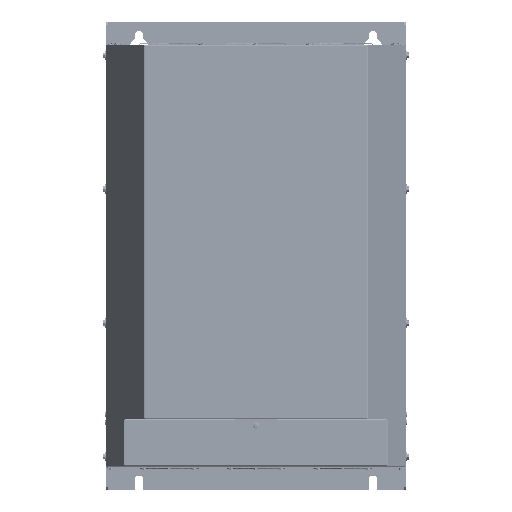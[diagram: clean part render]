
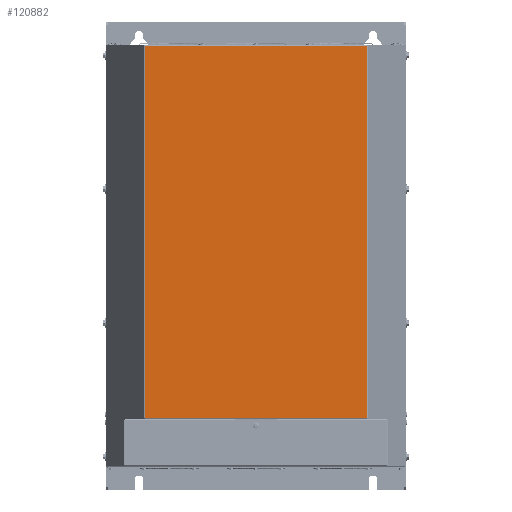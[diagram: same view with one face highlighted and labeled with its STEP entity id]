
A CAD part, front view. The second image highlights one B-rep face of the part: STEP entity #120882.
In plain terms, the highlighted planar face has unit normal (0, -1, 0).
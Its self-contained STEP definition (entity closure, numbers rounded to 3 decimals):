
#120567=CARTESIAN_POINT('',(166.226,-385.,-242.2));
#120568=VERTEX_POINT('',#120567);
#120576=CARTESIAN_POINT('',(-166.226,-385.,-242.2));
#120577=VERTEX_POINT('',#120576);
#120578=CARTESIAN_POINT('',(-166.226,-385.,-242.2));
#120579=DIRECTION('',(1.0,0.0,0.0));
#120580=VECTOR('',#120579,332.451);
#120581=LINE('',#120578,#120580);
#120582=EDGE_CURVE('',#120577,#120568,#120581,.T.);
#120736=CARTESIAN_POINT('',(-166.226,-385.,314.2));
#120737=VERTEX_POINT('',#120736);
#120738=CARTESIAN_POINT('',(-166.226,-385.,-242.2));
#120739=DIRECTION('',(0.0,0.0,1.0));
#120740=VECTOR('',#120739,556.4);
#120741=LINE('',#120738,#120740);
#120742=EDGE_CURVE('',#120577,#120737,#120741,.T.);
#120817=CARTESIAN_POINT('',(166.226,-385.,314.2));
#120818=VERTEX_POINT('',#120817);
#120826=CARTESIAN_POINT('',(166.226,-385.,-242.2));
#120827=DIRECTION('',(0.0,0.0,1.0));
#120828=VECTOR('',#120827,556.4);
#120829=LINE('',#120826,#120828);
#120830=EDGE_CURVE('',#120568,#120818,#120829,.T.);
#120866=CARTESIAN_POINT('',(166.226,-385.,-244.));
#120867=DIRECTION('',(0.0,-1.0,0.0));
#120868=DIRECTION('',(0.0,0.0,-1.0));
#120869=AXIS2_PLACEMENT_3D('',#120866,#120867,#120868);
#120870=PLANE('',#120869);
#120871=ORIENTED_EDGE('',*,*,#120582,.T.);
#120872=ORIENTED_EDGE('',*,*,#120830,.T.);
#120873=CARTESIAN_POINT('',(166.226,-385.,314.2));
#120874=DIRECTION('',(-1.0,0.0,0.0));
#120875=VECTOR('',#120874,332.451);
#120876=LINE('',#120873,#120875);
#120877=EDGE_CURVE('',#120818,#120737,#120876,.T.);
#120878=ORIENTED_EDGE('',*,*,#120877,.T.);
#120879=ORIENTED_EDGE('',*,*,#120742,.F.);
#120880=EDGE_LOOP('',(#120871,#120872,#120878,#120879));
#120881=FACE_OUTER_BOUND('',#120880,.T.);
#120882=ADVANCED_FACE('',(#120881),#120870,.T.);
